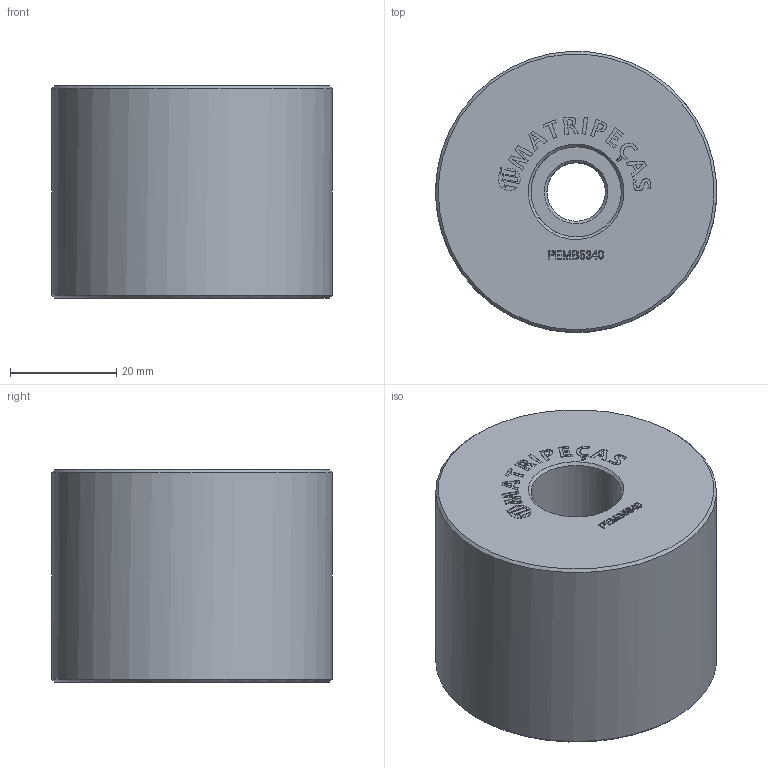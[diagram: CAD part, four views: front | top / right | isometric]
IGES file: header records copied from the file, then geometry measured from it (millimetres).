
Start section: C
Global section: file name: PEMB5340.igs; native system: By Siemens PLM Incorporated; preprocessor: XPlus GENERIC/IGES 18.0.17; author: Author; organization: Title; date: 20240719.105919; units: millimetre
Bounding box: 52.95 x 52.99 x 40 mm (x, y, z)
Volume: 80806.3 mm3; surface area: 12722.7 mm2
Topology: 1 solids, 1 shells, 270 faces, 709 edges, 472 vertices
Faces by surface type: bspline 270
